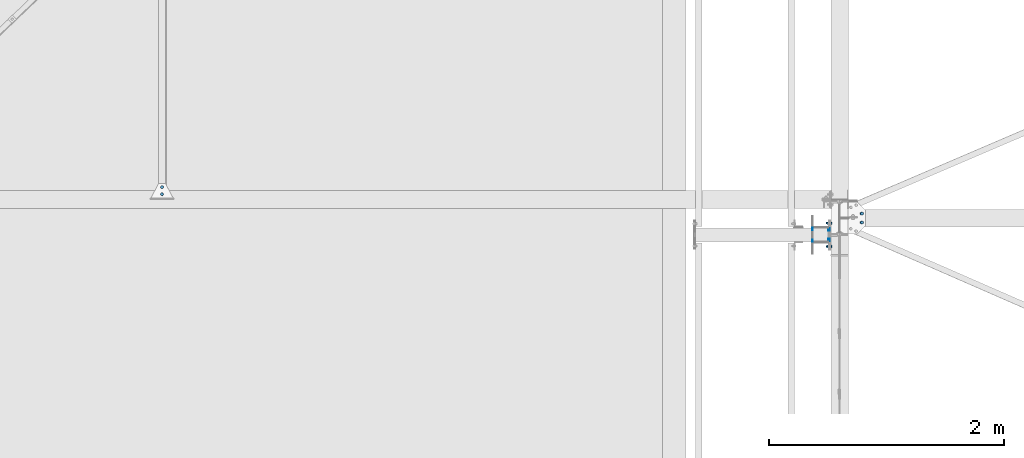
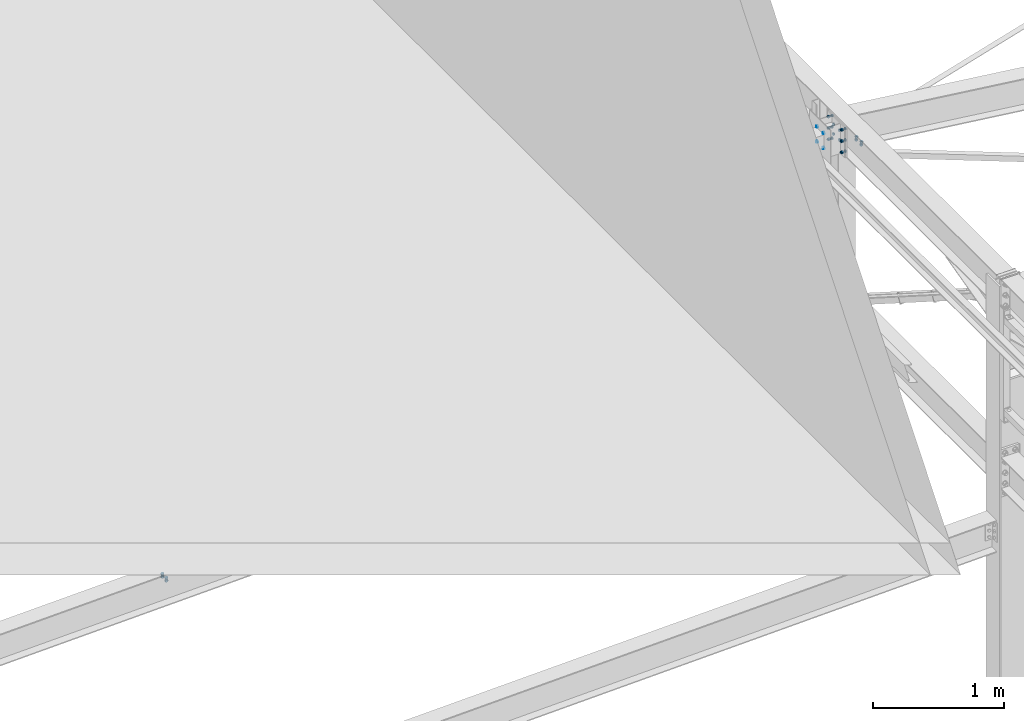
# One storey, part 204 of 3134: 5 mechanical fasteners, 4 elements without a shape of their own.
"""IFC2X3 building model written with IfcOpenShell, lengths in millimetres."""

from ifc_helpers import new_model, si_unit, frame, origin_with_axes, place, context, subcontext, project, spatial, faceted_brep, source, transform, mapped, material, type_object, element, aggregate, save


model = new_model("IFC2X3")

# Units and contexts
model_context = context("Model", 3, precision=1e-05, world=origin_with_axes())
body_context = subcontext(model_context, "Body", "Model", "MODEL_VIEW")
ifc_project = project(units=[si_unit("LENGTHUNIT", "METRE", prefix="MILLI"), si_unit("AREAUNIT", "SQUARE_METRE"), si_unit("VOLUMEUNIT", "CUBIC_METRE"), si_unit("MASSUNIT", "GRAM", prefix="KILO"), si_unit("TIMEUNIT", "SECOND"), si_unit("PLANEANGLEUNIT", "RADIAN"), si_unit("SOLIDANGLEUNIT", "STERADIAN"), si_unit("THERMODYNAMICTEMPERATUREUNIT", "DEGREE_CELSIUS"), si_unit("LUMINOUSINTENSITYUNIT", "LUMEN")], contexts=[model_context])

# Site, building, storey
site_placement = place(None, origin_with_axes())
site = spatial("IfcSite", under=ifc_project, at=site_placement, CompositionType="ELEMENT")
building_placement = place(site_placement, origin_with_axes())
building = spatial("IfcBuilding", under=site, at=building_placement, Name="Undefined", CompositionType="ELEMENT")
storey_placement = place(building_placement, origin_with_axes())
storey = spatial("IfcBuildingStorey", under=building, at=storey_placement, Name="Undefined", CompositionType="ELEMENT", Elevation=0.0)

# Assembly, mechanical fastener
assembly_1_placement = place(storey_placement, origin_with_axes())
assembly_1 = element("IfcElementAssembly", 1, at=assembly_1_placement, inside=storey, Name="300", AssemblyPlace="NOTDEFINED", PredefinedType="RIGID_FRAME")
ifc_material = material(Name="8.8")
mechanical_fastener_type = type_object("IfcMechanicalFastenerType", Name="Bolt assembly")
shared_shape_1 = source(origin_with_axes(), body_context, "Body", "Brep", [
    faceted_brep([(13.856406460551, -19.199990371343, 0.0), (6.92820323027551, -19.199990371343, 12.0), (-6.92820323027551, -19.199990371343, 12.0), (-13.856406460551, -19.199990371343, 1.69692038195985e-15), (-6.92820323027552, -19.199990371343, -12.0), (6.9282032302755, -19.199990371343, -12.0), (6.9282032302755, -9.19999037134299, -12.0), (-6.92820323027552, -9.19999037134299, -12.0), (-13.856406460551, -9.19999037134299, 1.69692038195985e-15), (-6.92820323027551, -9.19999037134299, 12.0), (6.92820323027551, -9.19999037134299, 12.0), (13.856406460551, -9.19999037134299, 0.0), (8.0, -9.19999037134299, 0.0), (6.92820323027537, -9.19999037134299, 4.00000000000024), (3.99999999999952, -9.19999037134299, 6.92820323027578), (-8.29068785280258e-13, -9.19999037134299, 8.0), (-4.00000000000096, -9.19999037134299, 6.92820323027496), (-6.9282032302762, -9.19999037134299, 3.99999999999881), (-8.0, -9.19999037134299, -1.65813757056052e-12), (-6.92820323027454, -9.19999037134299, -4.00000000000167), (-3.99999999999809, -9.19999037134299, -6.92820323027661), (2.47832457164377e-12, -9.19999037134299, -8.0), (4.00000000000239, -9.19999037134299, -6.92820323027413), (6.92820323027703, -9.19999037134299, -3.99999999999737), (6.92820323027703, 25.800009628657, -3.99999999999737), (4.00000000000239, 25.800009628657, -6.92820323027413), (2.47832457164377e-12, 25.800009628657, -8.0), (-3.99999999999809, 25.800009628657, -6.92820323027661), (-6.92820323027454, 25.800009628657, -4.00000000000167), (-8.0, 25.800009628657, -1.65813757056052e-12), (-6.9282032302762, 25.800009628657, 3.99999999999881), (-4.00000000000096, 25.800009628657, 6.92820323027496), (-8.29068785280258e-13, 25.800009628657, 8.0), (3.99999999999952, 25.800009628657, 6.92820323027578), (6.92820323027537, 25.800009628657, 4.00000000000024), (8.0, 25.800009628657, 0.0), (13.856406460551, 8.00000637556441, 0.0), (6.92820323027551, 8.00000637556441, 12.0), (-6.92820323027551, 8.00000637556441, 12.0), (-13.856406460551, 8.00000637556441, 1.69692038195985e-15), (-6.92820323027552, 8.00000637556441, -12.0), (6.9282032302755, 8.00000637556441, -12.0), (6.9282032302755, 21.0000063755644, -12.0), (-6.92820323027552, 21.0000063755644, -12.0), (-13.856406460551, 21.0000063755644, 1.69692038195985e-15), (-6.92820323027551, 21.0000063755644, 12.0), (6.92820323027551, 21.0000063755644, 12.0), (13.856406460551, 21.0000063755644, 0.0)], [[[0, 1, 2, 3, 4, 5]], [[6, 7, 8, 9, 10, 11]], [[0, 11, 10, 1]], [[1, 10, 9, 2]], [[2, 9, 8, 3]], [[3, 8, 7, 4]], [[4, 7, 6, 5]], [[5, 6, 11, 0]], [[12, 13, 14, 15, 16, 17, 18, 19, 20, 21, 22, 23]], [[24, 25, 26, 27, 28, 29, 30, 31, 32, 33, 34, 35]], [[12, 35, 34, 13]], [[13, 34, 33, 14]], [[14, 33, 32, 15]], [[15, 32, 31, 16]], [[16, 31, 30, 17]], [[17, 30, 29, 18]], [[18, 29, 28, 19]], [[19, 28, 27, 20]], [[20, 27, 26, 21]], [[21, 26, 25, 22]], [[22, 25, 24, 23]], [[23, 24, 35, 12]], [[36, 37, 38, 39, 40, 41]], [[42, 43, 44, 45, 46, 47]], [[36, 47, 46, 37]], [[37, 46, 45, 38]], [[38, 45, 44, 39]], [[39, 44, 43, 40]], [[40, 43, 42, 41]], [[41, 42, 47, 36]]]),
    faceted_brep([(9.0, -0.1, 0.0), (7.79422863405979, -0.1, 4.50000000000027), (4.49999999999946, -0.1, 7.79422863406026), (-9.3270238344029e-13, -0.1, 9.0), (-4.50000000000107, -0.1, 7.79422863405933), (-7.79422863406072, -0.1, 4.49999999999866), (-9.0, -0.1, -1.86540476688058e-12), (-7.79422863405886, -0.1, -4.50000000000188), (-4.49999999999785, -0.1, -7.79422863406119), (2.78811514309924e-12, -0.1, -9.0), (4.50000000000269, -0.1, -7.7942286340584), (7.79422863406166, -0.1, -4.49999999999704), (7.79422863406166, 8.00000000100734, -4.49999999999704), (4.50000000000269, 8.00000000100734, -7.7942286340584), (2.78811514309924e-12, 8.00000000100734, -9.0), (-4.49999999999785, 8.00000000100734, -7.79422863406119), (-7.79422863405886, 8.00000000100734, -4.50000000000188), (-9.0, 8.00000000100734, -1.86540476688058e-12), (-7.79422863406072, 8.00000000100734, 4.49999999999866), (-4.50000000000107, 8.00000000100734, 7.79422863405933), (-9.3270238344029e-13, 8.00000000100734, 9.0), (4.49999999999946, 8.00000000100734, 7.79422863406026), (7.79422863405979, 8.00000000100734, 4.50000000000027), (9.0, 8.00000000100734, 0.0), (9.0, -9.09999037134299, 0.0), (7.79422863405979, -9.09999037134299, 4.50000000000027), (4.49999999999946, -9.09999037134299, 7.79422863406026), (-9.3270238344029e-13, -9.09999037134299, 9.0), (-4.50000000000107, -9.09999037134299, 7.79422863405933), (-7.79422863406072, -9.09999037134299, 4.49999999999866), (-9.0, -9.09999037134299, -1.86540476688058e-12), (-7.79422863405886, -9.09999037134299, -4.50000000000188), (-4.49999999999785, -9.09999037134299, -7.79422863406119), (2.78811514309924e-12, -9.09999037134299, -9.0), (4.50000000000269, -9.09999037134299, -7.7942286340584), (7.79422863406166, -9.09999037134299, -4.49999999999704), (7.79422863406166, 0.100000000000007, -4.49999999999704), (4.50000000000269, 0.100000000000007, -7.7942286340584), (2.78811514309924e-12, 0.100000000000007, -9.0), (-4.49999999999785, 0.100000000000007, -7.79422863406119), (-7.79422863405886, 0.100000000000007, -4.50000000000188), (-9.0, 0.100000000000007, -1.86540476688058e-12), (-7.79422863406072, 0.100000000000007, 4.49999999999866), (-4.50000000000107, 0.100000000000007, 7.79422863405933), (-9.3270238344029e-13, 0.100000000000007, 9.0), (4.49999999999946, 0.100000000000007, 7.79422863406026), (7.79422863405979, 0.100000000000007, 4.50000000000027), (9.0, 0.100000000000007, 0.0)], [[[0, 1, 2, 3, 4, 5, 6, 7, 8, 9, 10, 11]], [[12, 13, 14, 15, 16, 17, 18, 19, 20, 21, 22, 23]], [[0, 23, 22, 1]], [[1, 22, 21, 2]], [[2, 21, 20, 3]], [[3, 20, 19, 4]], [[4, 19, 18, 5]], [[5, 18, 17, 6]], [[6, 17, 16, 7]], [[7, 16, 15, 8]], [[8, 15, 14, 9]], [[9, 14, 13, 10]], [[10, 13, 12, 11]], [[11, 12, 23, 0]], [[24, 25, 26, 27, 28, 29, 30, 31, 32, 33, 34, 35]], [[36, 37, 38, 39, 40, 41, 42, 43, 44, 45, 46, 47]], [[24, 47, 46, 25]], [[25, 46, 45, 26]], [[26, 45, 44, 27]], [[27, 44, 43, 28]], [[28, 43, 42, 29]], [[29, 42, 41, 30]], [[30, 41, 40, 31]], [[31, 40, 39, 32]], [[32, 39, 38, 33]], [[33, 38, 37, 34]], [[34, 37, 36, 35]], [[35, 36, 47, 24]]]),
])
mechanical_fastener_1_placement = place(assembly_1_placement, frame((21039.2248161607, 42887.9995130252, 5496.68063428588), z_axis=(0.992623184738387, 1.63108538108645e-05, -0.12124031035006), x_axis=(1.62000016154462e-05, -0.999999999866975, -1.90000018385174e-06)))
mechanical_fastener_1 = element("IfcMechanicalFastener", 2, at=mechanical_fastener_1_placement, type_object=mechanical_fastener_type, material=ifc_material, Name="Bolt assembly", NominalDiameter=16.0, NominalLength=35.0, context=body_context, shape_type="MappedRepresentation", body=[
    mapped(shared_shape_1, transform((0.0, 0.0, 0.0))),
    mapped(shared_shape_1, transform((76.0, 0.0, 0.0))),
])
aggregate(assembly_1, [mechanical_fastener_1])

# Assembly, mechanical fasteners
assembly_2_placement = place(storey_placement, origin_with_axes())
assembly_2 = element("IfcElementAssembly", 3, at=assembly_2_placement, inside=storey, AssemblyPlace="NOTDEFINED", PredefinedType="RIGID_FRAME")
shared_shape_2 = source(origin_with_axes(), body_context, "Body", "Brep", [
    faceted_brep([(9.0, -3.46568413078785e-07, 0.0), (7.79422863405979, -3.46568413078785e-07, 4.50000000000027), (4.49999999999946, -3.46568413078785e-07, 7.79422863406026), (-9.3270238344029e-13, -3.46568413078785e-07, 9.0), (-4.50000000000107, -3.46568413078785e-07, 7.79422863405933), (-7.79422863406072, -3.46568413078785e-07, 4.49999999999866), (-9.0, -3.46568413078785e-07, -1.86540476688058e-12), (-7.79422863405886, -3.46568413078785e-07, -4.50000000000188), (-4.49999999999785, -3.46568413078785e-07, -7.79422863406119), (2.78811514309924e-12, -3.46568413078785e-07, -9.0), (4.50000000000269, -3.46568413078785e-07, -7.7942286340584), (7.79422863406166, -3.46568413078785e-07, -4.49999999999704), (7.79422863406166, 6.1, -4.49999999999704), (4.50000000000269, 6.1, -7.7942286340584), (2.78811514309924e-12, 6.1, -9.0), (-4.49999999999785, 6.1, -7.79422863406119), (-7.79422863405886, 6.1, -4.50000000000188), (-9.0, 6.1, -1.86540476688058e-12), (-7.79422863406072, 6.1, 4.49999999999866), (-4.50000000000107, 6.1, 7.79422863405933), (-9.3270238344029e-13, 6.1, 9.0), (4.49999999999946, 6.1, 7.79422863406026), (7.79422863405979, 6.1, 4.50000000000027), (9.0, 6.1, 0.0)], [[[0, 1, 2, 3, 4, 5, 6, 7, 8, 9, 10, 11]], [[12, 13, 14, 15, 16, 17, 18, 19, 20, 21, 22, 23]], [[0, 23, 22, 1]], [[1, 22, 21, 2]], [[2, 21, 20, 3]], [[3, 20, 19, 4]], [[4, 19, 18, 5]], [[5, 18, 17, 6]], [[6, 17, 16, 7]], [[7, 16, 15, 8]], [[8, 15, 14, 9]], [[9, 14, 13, 10]], [[10, 13, 12, 11]], [[11, 12, 23, 0]]]),
])
mechanical_fastener_2_placement = place(assembly_2_placement, frame((20615.0, 42756.5019072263, 5760.0), z_axis=(0.0, 0.0, 1.0), x_axis=(0.0, -1.0, 0.0)))
mechanical_fastener_2 = element("IfcMechanicalFastener", 4, at=mechanical_fastener_2_placement, type_object=mechanical_fastener_type, material=ifc_material, Name="Bolt assembly", NominalDiameter=16.0, NominalLength=6.0, context=body_context, shape_type="MappedRepresentation", body=[
    mapped(shared_shape_2, transform((0.0, 0.0, -70.0))),
    mapped(shared_shape_2, transform((100.0, 0.0, -70.0))),
    mapped(shared_shape_2, transform((0.0, 0.0, 70.0))),
    mapped(shared_shape_2, transform((100.0, 0.0, 70.0))),
])
shared_shape_3 = source(origin_with_axes(), body_context, "Body", "Brep", [
    faceted_brep([(11.0, 0.0, 0.0), (9.52627944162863, 0.0, 5.50000000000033), (5.49999999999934, 0.0, 9.5262794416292), (-1.13996957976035e-12, 0.0, 11.0), (-5.50000000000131, 0.0, 9.52627944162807), (-9.52627944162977, 0.0, 5.49999999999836), (-11.0, 0.0, -2.27993915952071e-12), (-9.5262794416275, 0.0, -5.5000000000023), (-5.49999999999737, 0.0, -9.52627944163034), (3.40769628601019e-12, 0.0, -11.0), (5.50000000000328, 0.0, -9.52627944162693), (9.52627944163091, 0.0, -5.49999999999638), (9.52627944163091, 10.1, -5.49999999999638), (5.50000000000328, 10.1, -9.52627944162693), (3.40769628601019e-12, 10.1, -11.0), (-5.49999999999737, 10.1, -9.52627944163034), (-9.5262794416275, 10.1, -5.5000000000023), (-11.0, 10.1, -2.27993915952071e-12), (-9.52627944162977, 10.1, 5.49999999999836), (-5.50000000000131, 10.1, 9.52627944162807), (-1.13996957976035e-12, 10.1, 11.0), (5.49999999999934, 10.1, 9.5262794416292), (9.52627944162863, 10.1, 5.50000000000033), (11.0, 10.1, 0.0)], [[[0, 1, 2, 3, 4, 5, 6, 7, 8, 9, 10, 11]], [[12, 13, 14, 15, 16, 17, 18, 19, 20, 21, 22, 23]], [[0, 23, 22, 1]], [[1, 22, 21, 2]], [[2, 21, 20, 3]], [[3, 20, 19, 4]], [[4, 19, 18, 5]], [[5, 18, 17, 6]], [[6, 17, 16, 7]], [[7, 16, 15, 8]], [[8, 15, 14, 9]], [[9, 14, 13, 10]], [[10, 13, 12, 11]], [[11, 12, 23, 0]]]),
])
mechanical_fastener_3_placement = place(assembly_2_placement, frame((20755.0, 42751.5019072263, 5760.0), z_axis=(0.0, 0.0, 1.0), x_axis=(0.0, -1.0, 0.0)))
mechanical_fastener_3 = element("IfcMechanicalFastener", 5, at=mechanical_fastener_3_placement, type_object=mechanical_fastener_type, material=ifc_material, Name="Bolt assembly", NominalDiameter=20.0, NominalLength=10.0, context=body_context, shape_type="MappedRepresentation", body=[
    mapped(shared_shape_3, transform((0.0, 0.0, -45.0))),
    mapped(shared_shape_3, transform((90.0, 0.0, -45.0))),
    mapped(shared_shape_3, transform((0.0, 0.0, 45.0))),
    mapped(shared_shape_3, transform((90.0, 0.0, 45.0))),
])
aggregate(assembly_2, [mechanical_fastener_3, mechanical_fastener_2])

# Assembly, mechanical fastener
assembly_3_placement = place(storey_placement, origin_with_axes())
assembly_3 = element("IfcElementAssembly", 6, at=assembly_3_placement, inside=storey, Name="300", AssemblyPlace="NOTDEFINED", PredefinedType="RIGID_FRAME")
shared_shape_4 = source(origin_with_axes(), body_context, "Body", "Brep", [
    faceted_brep([(13.856406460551, -30.0, 0.0), (6.92820323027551, -30.0, 12.0), (-6.92820323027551, -30.0, 12.0), (-13.856406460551, -30.0, 1.69692038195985e-15), (-6.92820323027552, -30.0, -12.0), (6.9282032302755, -30.0, -12.0), (6.9282032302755, -20.0, -12.0), (-6.92820323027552, -20.0, -12.0), (-13.856406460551, -20.0, 1.69692038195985e-15), (-6.92820323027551, -20.0, 12.0), (6.92820323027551, -20.0, 12.0), (13.856406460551, -20.0, 0.0), (8.0, -20.0, 0.0), (6.92820323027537, -20.0, 4.00000000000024), (3.99999999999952, -20.0, 6.92820323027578), (-8.29068785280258e-13, -20.0, 8.0), (-4.00000000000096, -20.0, 6.92820323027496), (-6.9282032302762, -20.0, 3.99999999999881), (-8.0, -20.0, -1.65813757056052e-12), (-6.92820323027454, -20.0, -4.00000000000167), (-3.99999999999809, -20.0, -6.92820323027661), (2.47832457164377e-12, -20.0, -8.0), (4.00000000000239, -20.0, -6.92820323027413), (6.92820323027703, -20.0, -3.99999999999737), (6.92820323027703, 20.0, -3.99999999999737), (4.00000000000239, 20.0, -6.92820323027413), (2.47832457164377e-12, 20.0, -8.0), (-3.99999999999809, 20.0, -6.92820323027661), (-6.92820323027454, 20.0, -4.00000000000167), (-8.0, 20.0, -1.65813757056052e-12), (-6.9282032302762, 20.0, 3.99999999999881), (-4.00000000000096, 20.0, 6.92820323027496), (-8.29068785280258e-13, 20.0, 8.0), (3.99999999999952, 20.0, 6.92820323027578), (6.92820323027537, 20.0, 4.00000000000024), (8.0, 20.0, 0.0), (13.856406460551, 0.0, 0.0), (6.92820323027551, 0.0, 12.0), (-6.92820323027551, 0.0, 12.0), (-13.856406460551, 0.0, 1.69692038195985e-15), (-6.92820323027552, 0.0, -12.0), (6.9282032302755, 0.0, -12.0), (6.9282032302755, 12.9999996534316, -12.0), (-6.92820323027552, 12.9999996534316, -12.0), (-13.856406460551, 12.9999996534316, 1.69692038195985e-15), (-6.92820323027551, 12.9999996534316, 12.0), (6.92820323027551, 12.9999996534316, 12.0), (13.856406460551, 12.9999996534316, 0.0)], [[[0, 1, 2, 3, 4, 5]], [[6, 7, 8, 9, 10, 11]], [[0, 11, 10, 1]], [[1, 10, 9, 2]], [[2, 9, 8, 3]], [[3, 8, 7, 4]], [[4, 7, 6, 5]], [[5, 6, 11, 0]], [[12, 13, 14, 15, 16, 17, 18, 19, 20, 21, 22, 23]], [[24, 25, 26, 27, 28, 29, 30, 31, 32, 33, 34, 35]], [[12, 35, 34, 13]], [[13, 34, 33, 14]], [[14, 33, 32, 15]], [[15, 32, 31, 16]], [[16, 31, 30, 17]], [[17, 30, 29, 18]], [[18, 29, 28, 19]], [[19, 28, 27, 20]], [[20, 27, 26, 21]], [[21, 26, 25, 22]], [[22, 25, 24, 23]], [[23, 24, 35, 12]], [[36, 37, 38, 39, 40, 41]], [[42, 43, 44, 45, 46, 47]], [[36, 47, 46, 37]], [[37, 46, 45, 38]], [[38, 45, 44, 39]], [[39, 44, 43, 40]], [[40, 43, 42, 41]], [[41, 42, 47, 36]]]),
    faceted_brep([(9.0, -10.1000003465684, 0.0), (7.79422863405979, -10.1000003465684, 4.50000000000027), (4.49999999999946, -10.1000003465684, 7.79422863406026), (-9.3270238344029e-13, -10.1000003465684, 9.0), (-4.50000000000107, -10.1000003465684, 7.79422863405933), (-7.79422863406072, -10.1000003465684, 4.49999999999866), (-9.0, -10.1000003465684, -1.86540476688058e-12), (-7.79422863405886, -10.1000003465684, -4.50000000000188), (-4.49999999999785, -10.1000003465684, -7.79422863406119), (2.78811514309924e-12, -10.1000003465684, -9.0), (4.50000000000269, -10.1000003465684, -7.7942286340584), (7.79422863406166, -10.1000003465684, -4.49999999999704), (7.79422863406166, -3.46568413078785e-07, -4.49999999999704), (4.50000000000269, -3.46568413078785e-07, -7.7942286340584), (2.78811514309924e-12, -3.46568413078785e-07, -9.0), (-4.49999999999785, -3.46568413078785e-07, -7.79422863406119), (-7.79422863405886, -3.46568413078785e-07, -4.50000000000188), (-9.0, -3.46568413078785e-07, -1.86540476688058e-12), (-7.79422863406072, -3.46568413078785e-07, 4.49999999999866), (-4.50000000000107, -3.46568413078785e-07, 7.79422863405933), (-9.3270238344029e-13, -3.46568413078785e-07, 9.0), (4.49999999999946, -3.46568413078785e-07, 7.79422863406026), (7.79422863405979, -3.46568413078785e-07, 4.50000000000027), (9.0, -3.46568413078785e-07, 0.0), (9.0, -19.9, 0.0), (7.79422863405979, -19.9, 4.50000000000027), (4.49999999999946, -19.9, 7.79422863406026), (-9.3270238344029e-13, -19.9, 9.0), (-4.50000000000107, -19.9, 7.79422863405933), (-7.79422863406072, -19.9, 4.49999999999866), (-9.0, -19.9, -1.86540476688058e-12), (-7.79422863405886, -19.9, -4.50000000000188), (-4.49999999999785, -19.9, -7.79422863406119), (2.78811514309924e-12, -19.9, -9.0), (4.50000000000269, -19.9, -7.7942286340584), (7.79422863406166, -19.9, -4.49999999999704), (7.79422863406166, -9.89999997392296, -4.49999999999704), (4.50000000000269, -9.89999997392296, -7.7942286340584), (2.78811514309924e-12, -9.89999997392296, -9.0), (-4.49999999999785, -9.89999997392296, -7.79422863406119), (-7.79422863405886, -9.89999997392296, -4.50000000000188), (-9.0, -9.89999997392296, -1.86540476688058e-12), (-7.79422863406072, -9.89999997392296, 4.49999999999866), (-4.50000000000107, -9.89999997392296, 7.79422863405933), (-9.3270238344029e-13, -9.89999997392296, 9.0), (4.49999999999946, -9.89999997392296, 7.79422863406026), (7.79422863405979, -9.89999997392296, 4.50000000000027), (9.0, -9.89999997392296, 0.0)], [[[0, 1, 2, 3, 4, 5, 6, 7, 8, 9, 10, 11]], [[12, 13, 14, 15, 16, 17, 18, 19, 20, 21, 22, 23]], [[0, 23, 22, 1]], [[1, 22, 21, 2]], [[2, 21, 20, 3]], [[3, 20, 19, 4]], [[4, 19, 18, 5]], [[5, 18, 17, 6]], [[6, 17, 16, 7]], [[7, 16, 15, 8]], [[8, 15, 14, 9]], [[9, 14, 13, 10]], [[10, 13, 12, 11]], [[11, 12, 23, 0]], [[24, 25, 26, 27, 28, 29, 30, 31, 32, 33, 34, 35]], [[36, 37, 38, 39, 40, 41, 42, 43, 44, 45, 46, 47]], [[24, 47, 46, 25]], [[25, 46, 45, 26]], [[26, 45, 44, 27]], [[27, 44, 43, 28]], [[28, 43, 42, 29]], [[29, 42, 41, 30]], [[30, 41, 40, 31]], [[31, 40, 39, 32]], [[32, 39, 38, 33]], [[33, 38, 37, 34]], [[34, 37, 36, 35]], [[35, 36, 47, 24]]]),
])
mechanical_fastener_4_placement = place(assembly_3_placement, frame((20755.0, 42706.5019072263, 5846.5), z_axis=(0.0, 1.0, 0.0), x_axis=(0.0, 0.0, -1.0)))
mechanical_fastener_4 = element("IfcMechanicalFastener", 7, at=mechanical_fastener_4_placement, type_object=mechanical_fastener_type, material=ifc_material, Name="Bolt assembly", NominalDiameter=16.0, NominalLength=40.0, context=body_context, shape_type="MappedRepresentation", body=[
    mapped(shared_shape_4, transform((0.0, 0.0, -100.0))),
    mapped(shared_shape_4, transform((105.0, 0.0, -100.0))),
    mapped(shared_shape_4, transform((210.0, 0.0, -100.0))),
    mapped(shared_shape_4, transform((0.0, 0.0, 100.0))),
    mapped(shared_shape_4, transform((105.0, 0.0, 100.0))),
    mapped(shared_shape_4, transform((210.0, 0.0, 100.0))),
])
aggregate(assembly_3, [mechanical_fastener_4])

assembly_4_placement = place(storey_placement, origin_with_axes())
assembly_4 = element("IfcElementAssembly", 8, at=assembly_4_placement, inside=storey, Name="300", AssemblyPlace="NOTDEFINED", PredefinedType="RIGID_FRAME")
shared_shape_5 = source(origin_with_axes(), body_context, "Body", "Brep", [
    faceted_brep([(13.856406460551, -21.0000017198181, 0.0), (6.92820323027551, -21.0000017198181, 12.0), (-6.92820323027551, -21.0000017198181, 12.0), (-13.856406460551, -21.0000017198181, 1.69692038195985e-15), (-6.92820323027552, -21.0000017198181, -12.0), (6.9282032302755, -21.0000017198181, -12.0), (6.9282032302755, -11.0000017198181, -12.0), (-6.92820323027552, -11.0000017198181, -12.0), (-13.856406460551, -11.0000017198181, 1.69692038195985e-15), (-6.92820323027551, -11.0000017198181, 12.0), (6.92820323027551, -11.0000017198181, 12.0), (13.856406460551, -11.0000017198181, 0.0), (8.0, -11.0000017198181, 0.0), (6.92820323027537, -11.0000017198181, 4.00000000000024), (3.99999999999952, -11.0000017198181, 6.92820323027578), (-8.29068785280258e-13, -11.0000017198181, 8.0), (-4.00000000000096, -11.0000017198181, 6.92820323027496), (-6.9282032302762, -11.0000017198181, 3.99999999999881), (-8.0, -11.0000017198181, -1.65813757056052e-12), (-6.92820323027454, -11.0000017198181, -4.00000000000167), (-3.99999999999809, -11.0000017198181, -6.92820323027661), (2.47832457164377e-12, -11.0000017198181, -8.0), (4.00000000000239, -11.0000017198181, -6.92820323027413), (6.92820323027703, -11.0000017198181, -3.99999999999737), (6.92820323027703, 23.9999999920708, -3.99999999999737), (4.00000000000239, 23.9999999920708, -6.92820323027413), (2.47832457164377e-12, 23.9999999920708, -8.0), (-3.99999999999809, 23.9999999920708, -6.92820323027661), (-6.92820323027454, 23.9999999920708, -4.00000000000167), (-8.0, 23.9999999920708, -1.65813757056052e-12), (-6.9282032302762, 23.9999999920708, 3.99999999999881), (-4.00000000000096, 23.9999999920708, 6.92820323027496), (-8.29068785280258e-13, 23.9999999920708, 8.0), (3.99999999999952, 23.9999999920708, 6.92820323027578), (6.92820323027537, 23.9999999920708, 4.00000000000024), (8.0, 23.9999999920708, 0.0), (13.856406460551, 3.99999999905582, 0.0), (6.92820323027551, 3.99999999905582, 12.0), (-6.92820323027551, 3.99999999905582, 12.0), (-13.856406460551, 3.99999999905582, 1.69692038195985e-15), (-6.92820323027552, 3.99999999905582, -12.0), (6.9282032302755, 3.99999999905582, -12.0), (6.9282032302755, 16.9999999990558, -12.0), (-6.92820323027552, 16.9999999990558, -12.0), (-13.856406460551, 16.9999999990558, 1.69692038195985e-15), (-6.92820323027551, 16.9999999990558, 12.0), (6.92820323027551, 16.9999999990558, 12.0), (13.856406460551, 16.9999999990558, 0.0)], [[[0, 1, 2, 3, 4, 5]], [[6, 7, 8, 9, 10, 11]], [[0, 11, 10, 1]], [[1, 10, 9, 2]], [[2, 9, 8, 3]], [[3, 8, 7, 4]], [[4, 7, 6, 5]], [[5, 6, 11, 0]], [[12, 13, 14, 15, 16, 17, 18, 19, 20, 21, 22, 23]], [[24, 25, 26, 27, 28, 29, 30, 31, 32, 33, 34, 35]], [[12, 35, 34, 13]], [[13, 34, 33, 14]], [[14, 33, 32, 15]], [[15, 32, 31, 16]], [[16, 31, 30, 17]], [[17, 30, 29, 18]], [[18, 29, 28, 19]], [[19, 28, 27, 20]], [[20, 27, 26, 21]], [[21, 26, 25, 22]], [[22, 25, 24, 23]], [[23, 24, 35, 12]], [[36, 37, 38, 39, 40, 41]], [[42, 43, 44, 45, 46, 47]], [[36, 47, 46, 37]], [[37, 46, 45, 38]], [[38, 45, 44, 39]], [[39, 44, 43, 40]], [[40, 43, 42, 41]], [[41, 42, 47, 36]]]),
    faceted_brep([(9.0, -10.9000017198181, 0.0), (7.79422863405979, -10.9000017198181, 4.50000000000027), (4.49999999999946, -10.9000017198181, 7.79422863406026), (-9.3270238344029e-13, -10.9000017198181, 9.0), (-4.50000000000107, -10.9000017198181, 7.79422863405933), (-7.79422863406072, -10.9000017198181, 4.49999999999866), (-9.0, -10.9000017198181, -1.86540476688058e-12), (-7.79422863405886, -10.9000017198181, -4.50000000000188), (-4.49999999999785, -10.9000017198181, -7.79422863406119), (2.78811514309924e-12, -10.9000017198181, -9.0), (4.50000000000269, -10.9000017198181, -7.7942286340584), (7.79422863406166, -10.9000017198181, -4.49999999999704), (7.79422863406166, -3.9, -4.49999999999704), (4.50000000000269, -3.9, -7.7942286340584), (2.78811514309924e-12, -3.9, -9.0), (-4.49999999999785, -3.9, -7.79422863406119), (-7.79422863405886, -3.9, -4.50000000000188), (-9.0, -3.9, -1.86540476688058e-12), (-7.79422863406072, -3.9, 4.49999999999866), (-4.50000000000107, -3.9, 7.79422863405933), (-9.3270238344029e-13, -3.9, 9.0), (4.49999999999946, -3.9, 7.79422863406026), (7.79422863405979, -3.9, 4.50000000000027), (9.0, -3.9, 0.0), (9.0, -4.10000000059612, 0.0), (7.79422863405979, -4.10000000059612, 4.50000000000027), (4.49999999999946, -4.10000000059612, 7.79422863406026), (-9.3270238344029e-13, -4.10000000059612, 9.0), (-4.50000000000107, -4.10000000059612, 7.79422863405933), (-7.79422863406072, -4.10000000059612, 4.49999999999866), (-9.0, -4.10000000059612, -1.86540476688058e-12), (-7.79422863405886, -4.10000000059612, -4.50000000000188), (-4.49999999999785, -4.10000000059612, -7.79422863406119), (2.78811514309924e-12, -4.10000000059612, -9.0), (4.50000000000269, -4.10000000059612, -7.7942286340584), (7.79422863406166, -4.10000000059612, -4.49999999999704), (7.79422863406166, 4.00000375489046, -4.49999999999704), (4.50000000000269, 4.00000375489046, -7.7942286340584), (2.78811514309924e-12, 4.00000375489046, -9.0), (-4.49999999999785, 4.00000375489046, -7.79422863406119), (-7.79422863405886, 4.00000375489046, -4.50000000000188), (-9.0, 4.00000375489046, -1.86540476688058e-12), (-7.79422863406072, 4.00000375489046, 4.49999999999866), (-4.50000000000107, 4.00000375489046, 7.79422863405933), (-9.3270238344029e-13, 4.00000375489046, 9.0), (4.49999999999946, 4.00000375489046, 7.79422863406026), (7.79422863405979, 4.00000375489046, 4.50000000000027), (9.0, 4.00000375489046, 0.0)], [[[0, 1, 2, 3, 4, 5, 6, 7, 8, 9, 10, 11]], [[12, 13, 14, 15, 16, 17, 18, 19, 20, 21, 22, 23]], [[0, 23, 22, 1]], [[1, 22, 21, 2]], [[2, 21, 20, 3]], [[3, 20, 19, 4]], [[4, 19, 18, 5]], [[5, 18, 17, 6]], [[6, 17, 16, 7]], [[7, 16, 15, 8]], [[8, 15, 14, 9]], [[9, 14, 13, 10]], [[10, 13, 12, 11]], [[11, 12, 23, 0]], [[24, 25, 26, 27, 28, 29, 30, 31, 32, 33, 34, 35]], [[36, 37, 38, 39, 40, 41, 42, 43, 44, 45, 46, 47]], [[24, 47, 46, 25]], [[25, 46, 45, 26]], [[26, 45, 44, 27]], [[27, 44, 43, 28]], [[28, 43, 42, 29]], [[29, 42, 41, 30]], [[30, 41, 40, 31]], [[31, 40, 39, 32]], [[32, 39, 38, 33]], [[33, 38, 37, 34]], [[34, 37, 36, 35]], [[35, 36, 47, 24]]]),
])
mechanical_fastener_5_placement = place(assembly_4_placement, frame((15072.5010771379, 43053.33, 3386.35293761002), z_axis=(-0.999519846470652, 0.0, -0.0309851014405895), x_axis=(0.0, 1.0, 0.0)))
mechanical_fastener_5 = element("IfcMechanicalFastener", 9, at=mechanical_fastener_5_placement, type_object=mechanical_fastener_type, material=ifc_material, Name="Bolt assembly", NominalDiameter=16.0, NominalLength=35.0, context=body_context, shape_type="MappedRepresentation", body=[
    mapped(shared_shape_5, transform((0.0, 0.0, 0.0))),
    mapped(shared_shape_5, transform((59.9999999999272, 0.0, 5.40239852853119e-10))),
])
aggregate(assembly_4, [mechanical_fastener_5])

save(model, "model.ifc")
